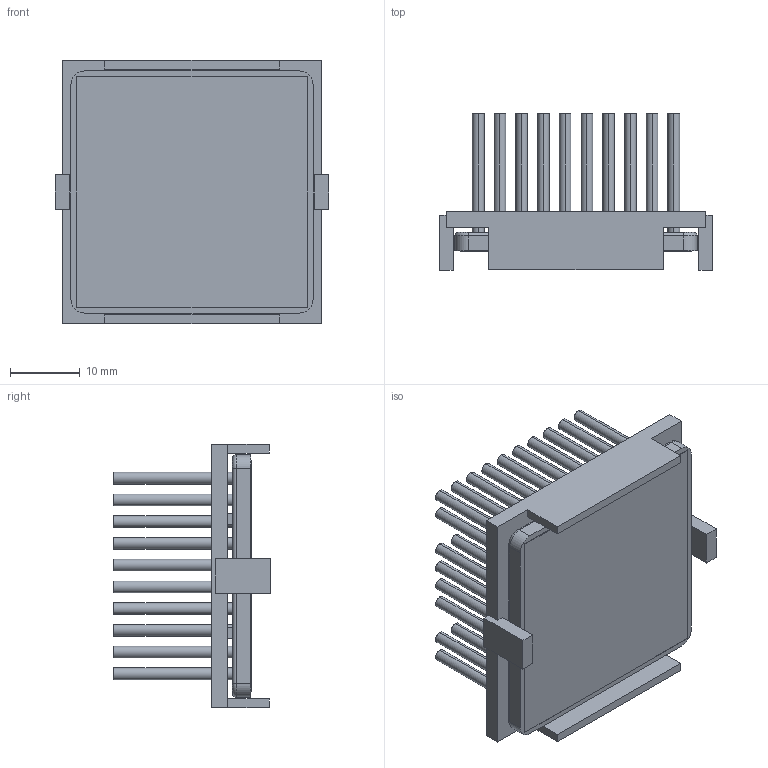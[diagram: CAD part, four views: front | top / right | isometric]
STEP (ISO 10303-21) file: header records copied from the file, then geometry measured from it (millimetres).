
FILE_DESCRIPTION (( 'STEP AP214' ), '1' );
FILE_NAME ('INM35002-20P-2.6K29.STEP', '2023-02-21T00:01:14', ( '' ), ( '' ), 'SwSTEP 2.0', 'SolidWorks 2020', '' );
FILE_SCHEMA (( 'AUTOMOTIVE_DESIGN' ));
Length unit declared in the file: inch
Products named in the file (1): INM35002-20P-2.6K29
Bounding box: 39.2 x 22.4 x 37.7 mm (x, y, z)
Volume: 8438 mm3; surface area: 15776.5 mm2
Topology: 3 solids, 3 shells, 354 faces, 760 edges, 504 vertices
Faces by surface type: cylinder 192, plane 158, torus 4
Entity records: 14416 total; most frequent: DIRECTION 1858, CARTESIAN_POINT 1619, ORIENTED_EDGE 1520, EDGE_CURVE 760, AXIS2_PLACEMENT_3D 743, VERTEX_POINT 504, EDGE_LOOP 448, CIRCLE 388
